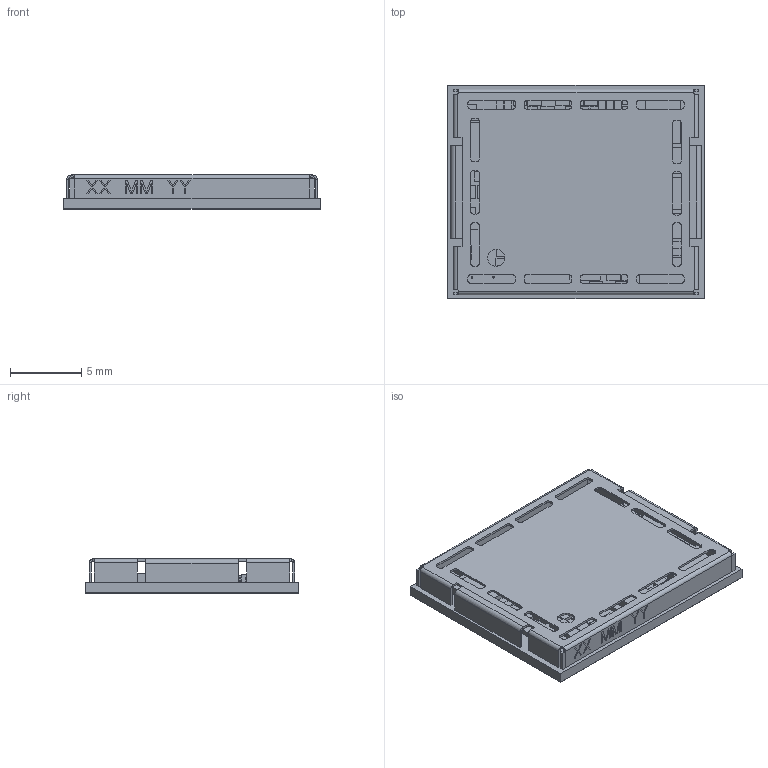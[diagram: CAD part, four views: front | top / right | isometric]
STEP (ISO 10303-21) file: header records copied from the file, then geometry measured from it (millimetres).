
FILE_DESCRIPTION((''),'2;1');
FILE_NAME('HL79_20240220_ASM','2024-02-20T11:49:19',('SLi'),(''),'CREO PARAMETRIC BY PTC INC, 2019471','CREO PARAMETRIC BY PTC INC, 2019471','');
FILE_SCHEMA(('CONFIG_CONTROL_DESIGN'));
Length unit declared in the file: inch
Products named in the file (26): HL79_NO_CX_8L_AMY_1222_OK_1; DFN_4P_0080X0080_SLUG_ROTATED_2; DFN_6P_0110X0070_0040CC_1_1; 0201D_1_1; FIL_4P_0090X0070_0040CC_RF360_2; XTAL_2P_0160X0100_1_1; QFN_24P_0300X0300_SLUG_0190X0_2; BGA_12P_0191X0327_0050CC_0030_2; DFN_6P_0230X0300_SLUG_0170X01_2; BGA_199P_0420X0671_00354CC_00_2; 01005R_1_1; XTAL_4P_0200X0160_1_1; 0806L_1_1; FIL_4P_0065X0050_0040CC_TDK_1_1; FIL_6P_0100X0050_0040CC_1_1; FIL_6P_0100X0050_0040CC_MURAT_1; 0201R_1_1; 0201L_1_1; 0201E_1_1; 0201C_1_1; 0402C_1_1; LGA_152P_CF3_1800X1500_MODULE_2; SHIELD_1_1; HL79_NO_CX_8L_AMY_1222_OK_ASM_1_ASM; 5302858_CAN; HL79_20240220_ASM
Assembly tree (134 placements, depth 3):
  HL79_20240220_ASM
    HL79_NO_CX_8L_AMY_1222_OK_ASM_1_ASM
      HL79_NO_CX_8L_AMY_1222_OK_1
      DFN_4P_0080X0080_SLUG_ROTATED_2
      DFN_6P_0110X0070_0040CC_1_1
      0201D_1_1  x2
      FIL_4P_0090X0070_0040CC_RF360_2
      XTAL_2P_0160X0100_1_1
      QFN_24P_0300X0300_SLUG_0190X0_2
      BGA_12P_0191X0327_0050CC_0030_2
      DFN_6P_0230X0300_SLUG_0170X01_2
      BGA_199P_0420X0671_00354CC_00_2
      01005R_1_1  x2
      XTAL_4P_0200X0160_1_1
      0806L_1_1  x2
      FIL_4P_0065X0050_0040CC_TDK_1_1
      FIL_6P_0100X0050_0040CC_1_1
      FIL_6P_0100X0050_0040CC_MURAT_1  x2
      0201R_1_1  x16
      0201L_1_1  x24
      0201E_1_1  x2
      0201C_1_1  x58
      0402C_1_1  x8
      LGA_152P_CF3_1800X1500_MODULE_2
      SHIELD_1_1  x3
    5302858_CAN
Bounding box: 18 x 15 x 2.39 mm (x, y, z)
Volume: 311.5 mm3; surface area: 2217.6 mm2
Topology: 133 solids, 133 shells, 1092 faces, 2378 edges, 1558 vertices
Faces by surface type: plane 1004, cylinder 88
Entity records: 14863 total; most frequent: DIRECTION 2704, CARTESIAN_POINT 2546, ORIENTED_EDGE 2164, EDGE_CURVE 1082, VECTOR 916, LINE 916, AXIS2_PLACEMENT_3D 894, VERTEX_POINT 694
